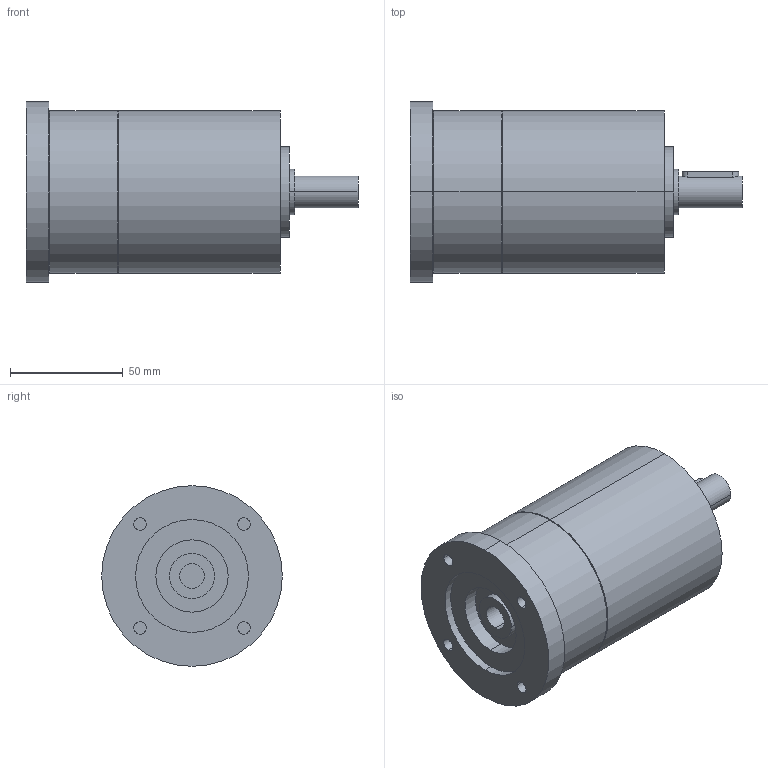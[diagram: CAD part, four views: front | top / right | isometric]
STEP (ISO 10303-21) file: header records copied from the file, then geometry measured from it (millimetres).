
FILE_DESCRIPTION(('CoCreate Modeling STEP Export'),'2;1');
FILE_NAME('GPT75_ig-9-12-16-20-25-28-35-40-50-70-100_14_B14T_11_P13.stp','2014-08-27T13:08:31',(''),(''),'CoCreate Modeling STEP processor for AP214 (Solid Model)','CoCreate Modeling 16.00C 25-Feb-2009 (C) Parametric Technology GmbH','');
FILE_SCHEMA(('AUTOMOTIVE_DESIGN { 1 0 10303 214 1 1 1 1 }'));
Length unit declared in the file: millimetre
Products named in the file (2): GPT75_ig-9-12-16-20-25-28-35-40-50-70-100_14_B14T_11_P13
Assembly tree (1 placements, depth 2):
  GPT75_ig-9-12-16-20-25-28-35-40-50-70-100_14_B14T_11_P13
    GPT75_ig-9-12-16-20-25-28-35-40-50-70-100_14_B14T_11_P13
Bounding box: 147 x 80 x 80 mm (x, y, z)
Volume: 461904.6 mm3; surface area: 42126.5 mm2
Topology: 1 solids, 1 shells, 67 faces, 150 edges, 103 vertices
Faces by surface type: cylinder 40, plane 23, cone 4
Entity records: 1958 total; most frequent: CARTESIAN_POINT 627, ORIENTED_EDGE 300, DIRECTION 222, EDGE_CURVE 150, VERTEX_POINT 103, AXIS2_PLACEMENT_3D 86, EDGE_LOOP 85, FACE_OUTER_BOUND 67
